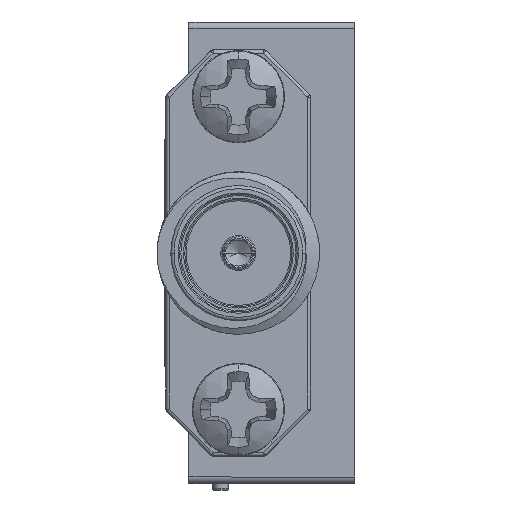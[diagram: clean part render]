
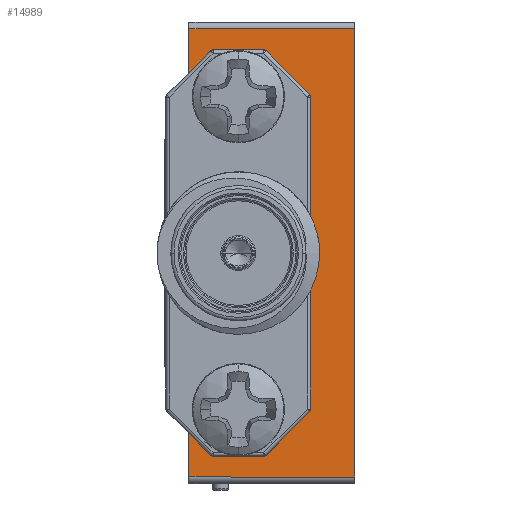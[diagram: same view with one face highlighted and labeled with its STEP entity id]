
A CAD part, left-side view. The second image highlights one B-rep face of the part: STEP entity #14989.
In plain terms, the highlighted planar face has unit normal (-1, 0, 0).
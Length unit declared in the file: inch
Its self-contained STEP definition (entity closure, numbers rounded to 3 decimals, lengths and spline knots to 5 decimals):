
#847 = EDGE_CURVE ( 'NONE', #35121, #35388, #17410, .T. ) ;
#1693 = EDGE_CURVE ( 'NONE', #9586, #2264, #42103, .T. ) ;
#1910 = VERTEX_POINT ( 'NONE', #27851 ) ;
#2120 = CARTESIAN_POINT ( 'NONE',  ( -0.54, 0.179, -0.241 ) ) ;
#2264 = VERTEX_POINT ( 'NONE', #18397 ) ;
#2333 = AXIS2_PLACEMENT_3D ( 'NONE', #36506, #9819, #13479 ) ;
#2499 = CARTESIAN_POINT ( 'NONE',  ( -0.54, 0., -0.355 ) ) ;
#2525 = CARTESIAN_POINT ( 'NONE',  ( -0.54, 0.107, 0.182 ) ) ;
#3398 = ORIENTED_EDGE ( 'NONE', *, *, #27358, .T. ) ;
#3433 = DIRECTION ( 'NONE',  ( 0., 1., 0. ) ) ;
#3729 = ORIENTED_EDGE ( 'NONE', *, *, #50584, .F. ) ;
#3731 = DIRECTION ( 'NONE',  ( 0., 1., 0. ) ) ;
#4465 = CARTESIAN_POINT ( 'NONE',  ( -0.54, 0.255, -0.345 ) ) ;
#5205 = ORIENTED_EDGE ( 'NONE', *, *, #10694, .F. ) ;
#5934 = ORIENTED_EDGE ( 'NONE', *, *, #46675, .F. ) ;
#6326 = CARTESIAN_POINT ( 'NONE',  ( -0.54, 0.255, -0.355 ) ) ;
#7559 = AXIS2_PLACEMENT_3D ( 'NONE', #14309, #45237, #17650 ) ;
#7705 = CARTESIAN_POINT ( 'NONE',  ( -0.54, 0.179, -0.1885 ) ) ;
#7886 = FACE_OUTER_BOUND ( 'NONE', #58256, .T. ) ;
#8255 = ORIENTED_EDGE ( 'NONE', *, *, #847, .T. ) ;
#8677 = DIRECTION ( 'NONE',  ( 0., 1., 0. ) ) ;
#9586 = VERTEX_POINT ( 'NONE', #13367 ) ;
#9819 = DIRECTION ( 'NONE',  ( -1., 0., 0. ) ) ;
#10694 = EDGE_CURVE ( 'NONE', #44570, #60211, #53512, .T. ) ;
#12017 = LINE ( 'NONE', #2525, #14070 ) ;
#13367 = CARTESIAN_POINT ( 'NONE',  ( -0.54, 0.179, 0.2925 ) ) ;
#13479 = DIRECTION ( 'NONE',  ( 0., 0., 1. ) ) ;
#14070 = VECTOR ( 'NONE', #16562, 39.37008 ) ;
#14084 = CIRCLE ( 'NONE', #48011, 0.0525 ) ;
#14309 = CARTESIAN_POINT ( 'NONE',  ( -0.54, 0.179, -0.241 ) ) ;
#14539 = DIRECTION ( 'NONE',  ( 0., 0., 1. ) ) ;
#14989 = ADVANCED_FACE ( 'NONE', ( #40022, #44898, #7886 ), #20382, .F. ) ;
#16562 = DIRECTION ( 'NONE',  ( 0., 0., 1. ) ) ;
#17010 = ORIENTED_EDGE ( 'NONE', *, *, #29671, .T. ) ;
#17360 = VECTOR ( 'NONE', #8677, 39.37008 ) ;
#17410 = LINE ( 'NONE', #2499, #24387 ) ;
#17650 = DIRECTION ( 'NONE',  ( 0., 0., 1. ) ) ;
#18374 = CARTESIAN_POINT ( 'NONE',  ( -0.54, 0.107, -0.182 ) ) ;
#18397 = CARTESIAN_POINT ( 'NONE',  ( -0.54, 0.179, 0.1875 ) ) ;
#19130 = AXIS2_PLACEMENT_3D ( 'NONE', #52948, #26381, #38828 ) ;
#20185 = CIRCLE ( 'NONE', #7559, 0.0525 ) ;
#20382 = PLANE ( 'NONE',  #19130 ) ;
#20719 = DIRECTION ( 'NONE',  ( -1., 0., 0. ) ) ;
#20888 = VERTEX_POINT ( 'NONE', #4465 ) ;
#20897 = CARTESIAN_POINT ( 'NONE',  ( -0.54, 0., 0.345 ) ) ;
#21660 = VERTEX_POINT ( 'NONE', #41142 ) ;
#21977 = CARTESIAN_POINT ( 'NONE',  ( -0.54, 0.255, 0.182 ) ) ;
#23536 = EDGE_CURVE ( 'NONE', #20888, #44385, #56707, .T. ) ;
#24387 = VECTOR ( 'NONE', #25609, 39.37008 ) ;
#24405 = CARTESIAN_POINT ( 'NONE',  ( -0.54, 0.255, -0.355 ) ) ;
#25079 = CIRCLE ( 'NONE', #28939, 0.0525 ) ;
#25609 = DIRECTION ( 'NONE',  ( 0., 0., 1. ) ) ;
#26381 = DIRECTION ( 'NONE',  ( 1., 0., 0. ) ) ;
#27358 = EDGE_CURVE ( 'NONE', #35388, #60211, #49706, .T. ) ;
#27474 = CARTESIAN_POINT ( 'NONE',  ( -0.54, 0.255, 0.345 ) ) ;
#27504 = ORIENTED_EDGE ( 'NONE', *, *, #23536, .F. ) ;
#27851 = CARTESIAN_POINT ( 'NONE',  ( -0.54, 0.107, -0.182 ) ) ;
#28939 = AXIS2_PLACEMENT_3D ( 'NONE', #47301, #52562, #14539 ) ;
#29671 = EDGE_CURVE ( 'NONE', #20888, #35121, #56462, .T. ) ;
#29738 = EDGE_CURVE ( 'NONE', #1910, #21660, #12017, .T. ) ;
#32026 = LINE ( 'NONE', #50322, #17360 ) ;
#32760 = ORIENTED_EDGE ( 'NONE', *, *, #1693, .F. ) ;
#33700 = VERTEX_POINT ( 'NONE', #60065 ) ;
#33807 = ORIENTED_EDGE ( 'NONE', *, *, #37084, .F. ) ;
#35121 = VERTEX_POINT ( 'NONE', #51153 ) ;
#35388 = VERTEX_POINT ( 'NONE', #20897 ) ;
#35776 = EDGE_CURVE ( 'NONE', #1910, #44385, #49984, .T. ) ;
#36075 = ORIENTED_EDGE ( 'NONE', *, *, #50396, .F. ) ;
#36506 = CARTESIAN_POINT ( 'NONE',  ( -0.54, 0.179, 0.24 ) ) ;
#37084 = EDGE_CURVE ( 'NONE', #53286, #33700, #14084, .T. ) ;
#37303 = VECTOR ( 'NONE', #46907, 39.37008 ) ;
#38081 = VECTOR ( 'NONE', #3731, 39.37008 ) ;
#38828 = DIRECTION ( 'NONE',  ( 0., 0., -1. ) ) ;
#40022 = FACE_BOUND ( 'NONE', #57255, .T. ) ;
#41030 = ORIENTED_EDGE ( 'NONE', *, *, #29738, .F. ) ;
#41142 = CARTESIAN_POINT ( 'NONE',  ( -0.54, 0.107, 0.182 ) ) ;
#41177 = VECTOR ( 'NONE', #46958, 39.37008 ) ;
#41381 = EDGE_LOOP ( 'NONE', ( #33807, #5934 ) ) ;
#42103 = CIRCLE ( 'NONE', #2333, 0.0525 ) ;
#43654 = DIRECTION ( 'NONE',  ( 0., 0., 1. ) ) ;
#44385 = VERTEX_POINT ( 'NONE', #47854 ) ;
#44570 = VERTEX_POINT ( 'NONE', #21977 ) ;
#44655 = VECTOR ( 'NONE', #3433, 39.37008 ) ;
#44898 = FACE_BOUND ( 'NONE', #41381, .T. ) ;
#45237 = DIRECTION ( 'NONE',  ( -1., 0., 0. ) ) ;
#46675 = EDGE_CURVE ( 'NONE', #33700, #53286, #20185, .T. ) ;
#46907 = DIRECTION ( 'NONE',  ( 0., 0., 1. ) ) ;
#46958 = DIRECTION ( 'NONE',  ( 0., -1., 0. ) ) ;
#47301 = CARTESIAN_POINT ( 'NONE',  ( -0.54, 0.179, 0.24 ) ) ;
#47854 = CARTESIAN_POINT ( 'NONE',  ( -0.54, 0.255, -0.182 ) ) ;
#48011 = AXIS2_PLACEMENT_3D ( 'NONE', #2120, #20719, #57819 ) ;
#48280 = VECTOR ( 'NONE', #43654, 39.37008 ) ;
#49706 = LINE ( 'NONE', #27474, #44655 ) ;
#49984 = LINE ( 'NONE', #18374, #38081 ) ;
#50322 = CARTESIAN_POINT ( 'NONE',  ( -0.54, 0.107, 0.182 ) ) ;
#50396 = EDGE_CURVE ( 'NONE', #2264, #9586, #25079, .T. ) ;
#50584 = EDGE_CURVE ( 'NONE', #21660, #44570, #32026, .T. ) ;
#51153 = CARTESIAN_POINT ( 'NONE',  ( -0.54, 0., -0.345 ) ) ;
#52512 = CARTESIAN_POINT ( 'NONE',  ( -0.54, 0.255, -0.345 ) ) ;
#52523 = CARTESIAN_POINT ( 'NONE',  ( -0.54, 0.255, 0.345 ) ) ;
#52562 = DIRECTION ( 'NONE',  ( -1., 0., 0. ) ) ;
#52948 = CARTESIAN_POINT ( 'NONE',  ( -0.54, 0.255, -0.355 ) ) ;
#53286 = VERTEX_POINT ( 'NONE', #7705 ) ;
#53512 = LINE ( 'NONE', #6326, #48280 ) ;
#53763 = ORIENTED_EDGE ( 'NONE', *, *, #35776, .T. ) ;
#56462 = LINE ( 'NONE', #52512, #41177 ) ;
#56707 = LINE ( 'NONE', #24405, #37303 ) ;
#57255 = EDGE_LOOP ( 'NONE', ( #32760, #36075 ) ) ;
#57819 = DIRECTION ( 'NONE',  ( 0., 0., 1. ) ) ;
#58256 = EDGE_LOOP ( 'NONE', ( #8255, #3398, #5205, #3729, #41030, #53763, #27504, #17010 ) ) ;
#60065 = CARTESIAN_POINT ( 'NONE',  ( -0.54, 0.179, -0.2935 ) ) ;
#60211 = VERTEX_POINT ( 'NONE', #52523 ) ;
